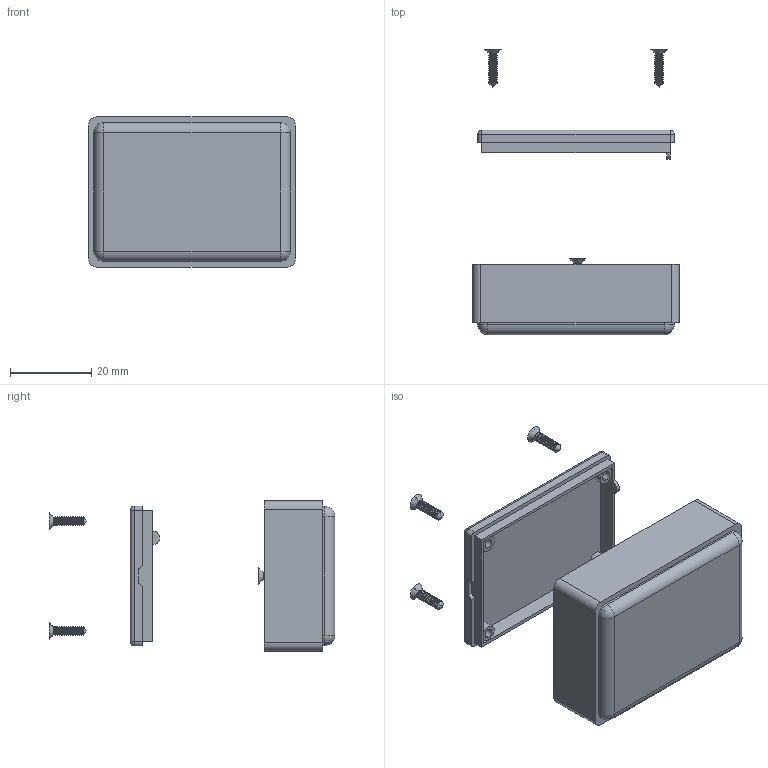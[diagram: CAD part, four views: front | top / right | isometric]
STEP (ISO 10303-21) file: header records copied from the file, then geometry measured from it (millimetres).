
FILE_DESCRIPTION (( 'STEP AP214' ), '1' );
FILE_NAME ('Conjunt PP85D.STEP', '2016-09-22T16:45:13', ( 'aaa' ), ( '' ), 'SwSTEP 2.0', 'SolidWorks 2013', '' );
FILE_SCHEMA (( 'AUTOMOTIVE_DESIGN' ));
Length unit declared in the file: millimetre
Products named in the file (5): Conjunt PP85D; Cargol 2,2x9,5 PP85D; Cargol 2,1x6,5 PP85D; Tapa PP85D; Cuerpo PP85D
Assembly tree (7 placements, depth 2):
  Conjunt PP85D
    Cuerpo PP85D
    Tapa PP85D
    Cargol 2,1x6,5 PP85D
    Cargol 2,2x9,5 PP85D  x4
Bounding box: 51 x 70.4 x 37 mm (x, y, z)
Volume: 12751.6 mm3; surface area: 15552.2 mm2
Topology: 7 solids, 7 shells, 518 faces, 1138 edges, 641 vertices
Faces by surface type: cone 310, plane 127, cylinder 73, sphere 8
Entity records: 7642 total; most frequent: DIRECTION 1408, CARTESIAN_POINT 1244, ORIENTED_EDGE 1212, EDGE_CURVE 606, AXIS2_PLACEMENT_3D 523, LINE 362, VECTOR 362, VERTEX_POINT 359
